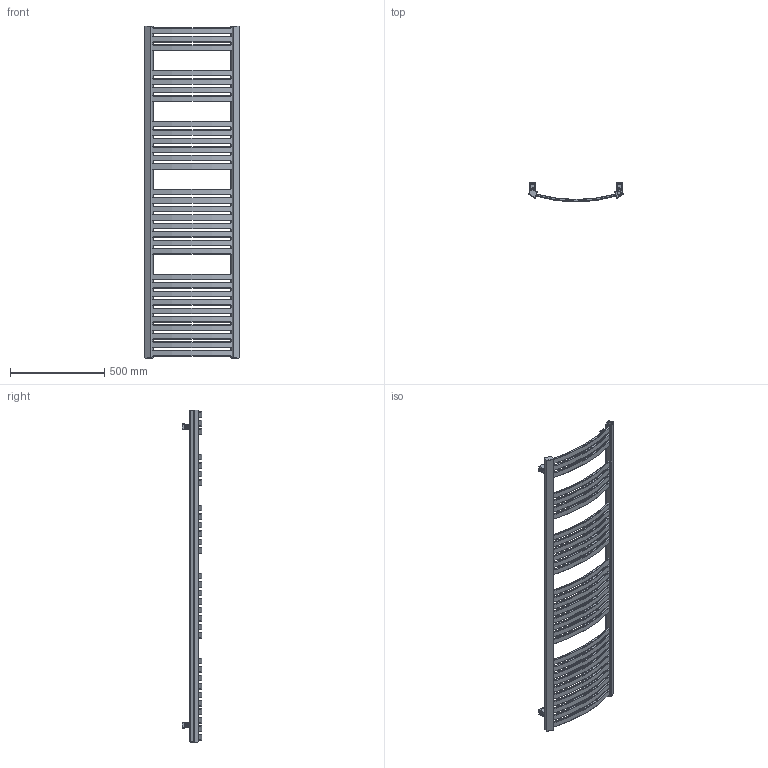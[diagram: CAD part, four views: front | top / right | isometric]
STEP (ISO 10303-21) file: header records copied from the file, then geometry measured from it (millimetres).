
FILE_DESCRIPTION((''),'2;1');
FILE_NAME('Z:\R\G\P\RGPH02 - Grzejnik Dexter\Work\Inventor\Marketing\Autocad\DE-1760-500 SX.stp','2012-07-12T13:31:02',('KurKa'),(''),'Autodesk Inventor 2012','Autodesk Inventor 2012','');
FILE_SCHEMA(('AUTOMOTIVE_DESIGN { 1 0 10303 214 1 1 1 1 }'));
Length unit declared in the file: millimetre
Products named in the file (10): DE-1760-500 SX; DE-1760-500-1-5-8; MKT42-00-B v0.2; MKT42-01 v0; MKT42-02-B v0; PN_M-82019; M6; NK-S10-M5-3-R; PN-87/M-82302 M5 x 22; PN-87/M-82302  M5 x 12; MKT42-03 v0.2
Assembly tree (12 placements, depth 3):
  DE-1760-500 SX
    DE-1760-500-1-5-8
    MKT42-00-B v0.2  x4
      MKT42-01 v0
      MKT42-02-B v0
      PN_M-82019; M6
      NK-S10-M5-3-R
      PN-87/M-82302 M5 x 22
      PN-87/M-82302  M5 x 12
      MKT42-03 v0.2
Bounding box: 499.85 x 102.4 x 1760 mm (x, y, z)
Volume: 8326949.1 mm3; surface area: 1577358.3 mm2
Topology: 29 solids, 29 shells, 1685 faces, 4615 edges, 3009 vertices
Faces by surface type: plane 1045, cylinder 389, torus 167, cone 44, bspline 40
Full cylindrical faces by diameter (mm): 4.134 x4, 5 x8, 5.5 x12, 6.3 x4, 8.5 x8, 10 x4, 18 x4, 18.631 x3
Entity records: 21768 total; most frequent: CARTESIAN_POINT 4199, DIRECTION 3808, ORIENTED_EDGE 3552, EDGE_CURVE 1776, AXIS2_PLACEMENT_3D 1425, VERTEX_POINT 1174, VECTOR 958, LINE 958
